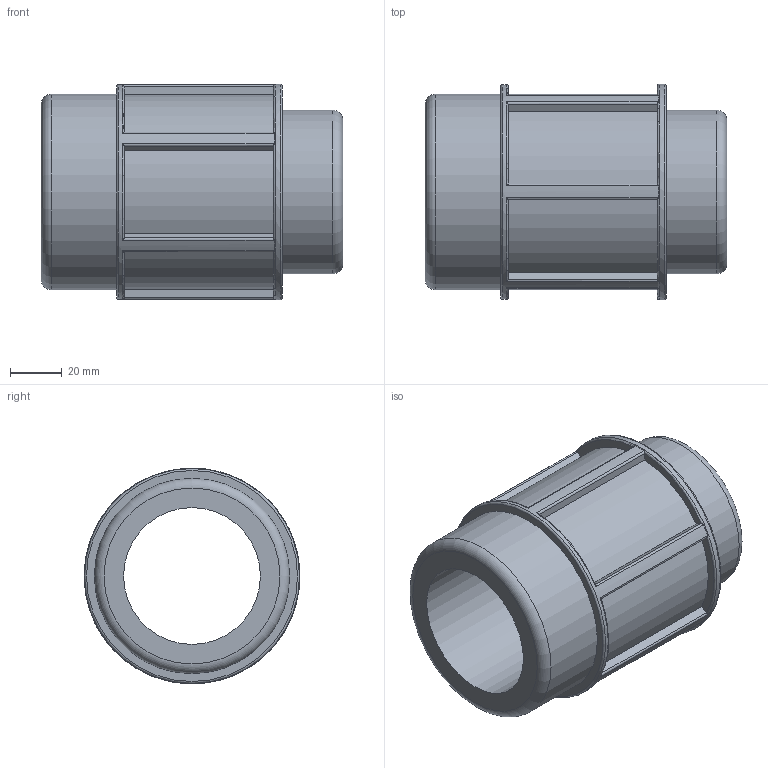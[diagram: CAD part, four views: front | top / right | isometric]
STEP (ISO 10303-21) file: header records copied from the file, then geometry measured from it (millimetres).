
FILE_DESCRIPTION(/* description */ ('PLASSON THREADED MALE ADAPTOR 63-2.1/2"'),/* implementation_level */ '2;1');
FILE_NAME(/* name */ 'C:\Dropbox\KIMPROJECTS-Inventor\99-16-3568-Processing\Silver+MF ISRAEL\078901\078901063025.ipt.stp',/* time_stamp */ '2018-04-09T13:02:07+03:00',/* author */ ('KIM'),/* organization */ (''),/* preprocessor_version */ 'ST-DEVELOPER v15.6',/* originating_system */ 'Autodesk Inventor 2015',/* authorisation */ '');
FILE_SCHEMA (('AUTOMOTIVE_DESIGN { 1 0 10303 214 3 1 1 }'));
Length unit declared in the file: millimetre
Products named in the file (1): 078901063025
Bounding box: 116 x 83 x 83 mm (x, y, z)
Volume: 244370.3 mm3; surface area: 55284.8 mm2
Topology: 1 solids, 1 shells, 62 faces, 169 edges, 111 vertices
Faces by surface type: plane 28, cylinder 23, torus 11
Full cylindrical faces by diameter (mm): 52.629 x1, 63 x1, 75.184 x1, 82.702 x1, 83 x1
Entity records: 2222 total; most frequent: CARTESIAN_POINT 689, ORIENTED_EDGE 314, DIRECTION 308, EDGE_CURVE 157, AXIS2_PLACEMENT_3D 124, VERTEX_POINT 109, EDGE_LOOP 76, FACE_OUTER_BOUND 62
